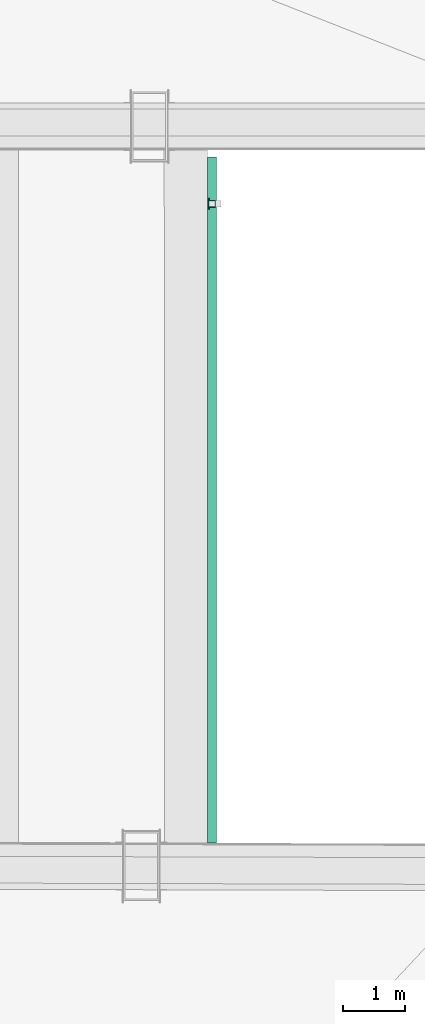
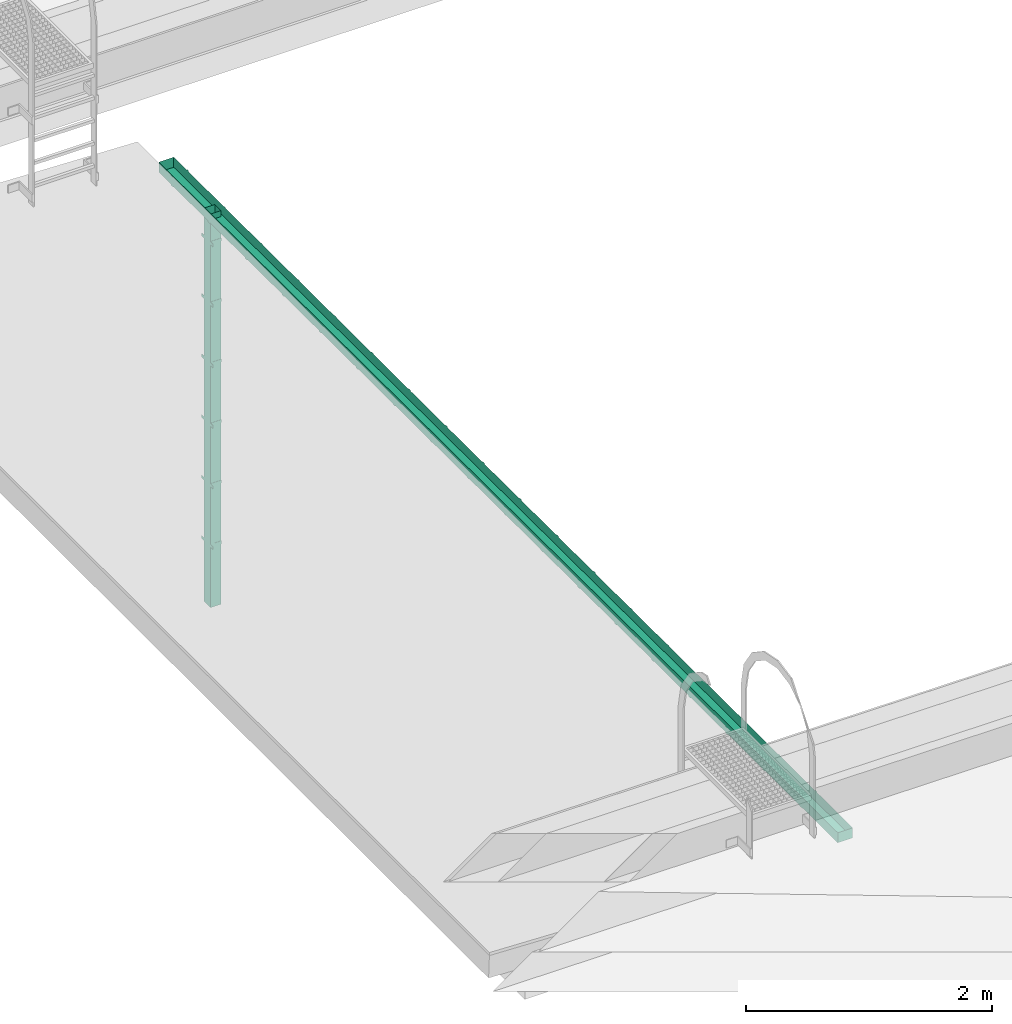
# One storey, part 26 of 47: 2 flow terminals.
"""IFC2X3 building model written with IfcOpenShell, lengths in millimetres."""

from ifc_helpers import new_model, entity, si_unit, converted_unit, derived_unit, money_unit, direction, frame, origin_with_axes, place, context, subcontext, project, spatial, open_shell, faceted_brep, surface_model, type_object, element, save


model = new_model("IFC2X3")

# Units and contexts
model_context = context("Model", 3, precision=1e-05, world=origin_with_axes(), true_north=direction((0.0, 1.0)))
body_context = subcontext(model_context, "Body", "Model", "MODEL_VIEW")
ifc_project = project(units=[si_unit("LENGTHUNIT", "METRE", prefix="MILLI"), si_unit("AREAUNIT", "SQUARE_METRE"), si_unit("VOLUMEUNIT", "CUBIC_METRE"), converted_unit("PLANEANGLEUNIT", "DEGREE", entity("IfcPlaneAngleMeasure", 0.0174532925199), si_unit("PLANEANGLEUNIT", "RADIAN"), dimensions=[0, 0, 0, 0, 0, 0, 0]), si_unit("SOLIDANGLEUNIT", "STERADIAN"), money_unit("EUR"), converted_unit("TIMEUNIT", "Year", entity("IfcTimeMeasure", 31556926.0), si_unit("TIMEUNIT", "SECOND"), dimensions=[0, 0, 1, 0, 0, 0, 0]), si_unit("MASSUNIT", "GRAM", prefix="KILO"), si_unit("THERMODYNAMICTEMPERATUREUNIT", "DEGREE_CELSIUS"), si_unit("LUMINOUSINTENSITYUNIT", "LUMEN"), si_unit("ENERGYUNIT", "JOULE", prefix="MEGA"), derived_unit("THERMALCONDUCTANCEUNIT", [(si_unit("POWERUNIT", "WATT"), 1), (si_unit("LENGTHUNIT", "METRE"), -1), (si_unit("THERMODYNAMICTEMPERATUREUNIT", "KELVIN"), -1)]), derived_unit("SPECIFICHEATCAPACITYUNIT", [(si_unit("ENERGYUNIT", "JOULE"), 1), (si_unit("MASSUNIT", "GRAM", prefix="KILO"), -1), (si_unit("THERMODYNAMICTEMPERATUREUNIT", "KELVIN"), -1)]), derived_unit("MASSDENSITYUNIT", [(si_unit("MASSUNIT", "GRAM", prefix="KILO"), 1), (si_unit("VOLUMEUNIT", "CUBIC_METRE"), -1)])], contexts=[model_context])

# Site, building, storey
site_placement = place(None, origin_with_axes())
site = spatial("IfcSite", under=ifc_project, at=site_placement, Name="Site", CompositionType="ELEMENT")
building_placement = place(site_placement, origin_with_axes())
building = spatial("IfcBuilding", under=site, at=building_placement, Name="Building", CompositionType="ELEMENT")
storey_placement = place(building_placement, frame((0.0, 0.0, 6000.0), z_axis=(0.0, 0.0, 1.0), x_axis=(1.0, 0.0, 0.0)))
storey = spatial("IfcBuildingStorey", under=building, at=storey_placement, Name="KATUSEPLAAN", CompositionType="ELEMENT", Elevation=6000.0)

# Flow terminals
waste_terminal_type_1 = type_object("IfcWasteTerminalType", Name="Gutter 22", PredefinedType="NOTDEFINED")
flow_terminal_1_placement = place(storey_placement, frame((40586.0364027, 22989.4626956, 174.455668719), z_axis=(0.0, 0.0, 1.0), x_axis=(0.0, 1.0, 0.0)))
element("IfcFlowTerminal", 1, at=flow_terminal_1_placement, inside=storey, type_object=waste_terminal_type_1, Name="Renn", context=body_context, shape_type="SurfaceModel", body=[
    surface_model("IfcShellBasedSurfaceModel", [(-0.349065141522, 70.0, -99.9993907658), (-0.349065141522, -70.0, -99.9993907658), (11021.4887445, -70.0, -138.473018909), (11021.4887445, 70.0, -138.473018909), (10321.4258603, 50.0, -136.029328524), (10321.4258603, -50.0, -136.029328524), (10221.4264695, -50.0, -135.680263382), (10221.4264695, 50.0, -135.680263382), (0.0, -70.0, 0.0), (11021.8378096, -70.0, -38.473628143), (11021.8378096, 70.0, -38.473628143), (0.0, 70.0, 0.0)], [open_shell([[[0, 1, 2, 3], [4, 5, 6, 7]], [[2, 1, 8, 9]], [[10, 11, 0, 3]]])]),
    surface_model("IfcShellBasedSurfaceModel", [(585.0, -74.0, -0.0420435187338), (585.0, -74.0, -104.147372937), (615.0, -74.0, -104.147372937), (615.0, -74.0, -0.0420435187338), (585.0, 74.0, -104.147372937), (615.0, 74.0, -104.147372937), (585.0, 74.0, -0.0420435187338), (615.0, 74.0, -0.0420435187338)], [open_shell([[[0, 1, 2, 3]], [[1, 4, 5, 2]], [[4, 6, 7, 5]]])]),
    surface_model("IfcShellBasedSurfaceModel", [(1185.0, -74.0, -2.13644712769), (1185.0, -74.0, -106.241776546), (1215.0, -74.0, -106.241776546), (1215.0, -74.0, -2.13644712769), (1185.0, 74.0, -106.241776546), (1215.0, 74.0, -106.241776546), (1185.0, 74.0, -2.13644712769), (1215.0, 74.0, -2.13644712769)], [open_shell([[[0, 1, 2, 3]], [[1, 4, 5, 2]], [[4, 6, 7, 5]]])]),
    surface_model("IfcShellBasedSurfaceModel", [(1785.0, -74.0, -4.23085073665), (1785.0, -74.0, -108.336180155), (1815.0, -74.0, -108.336180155), (1815.0, -74.0, -4.23085073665), (1785.0, 74.0, -108.336180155), (1815.0, 74.0, -108.336180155), (1785.0, 74.0, -4.23085073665), (1815.0, 74.0, -4.23085073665)], [open_shell([[[0, 1, 2, 3]], [[1, 4, 5, 2]], [[4, 6, 7, 5]]])]),
    surface_model("IfcShellBasedSurfaceModel", [(2385.0, -74.0, -6.32525434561), (2385.0, -74.0, -110.430583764), (2415.0, -74.0, -110.430583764), (2415.0, -74.0, -6.32525434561), (2385.0, 74.0, -110.430583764), (2415.0, 74.0, -110.430583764), (2385.0, 74.0, -6.32525434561), (2415.0, 74.0, -6.32525434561)], [open_shell([[[0, 1, 2, 3]], [[1, 4, 5, 2]], [[4, 6, 7, 5]]])]),
    surface_model("IfcShellBasedSurfaceModel", [(2985.0, -74.0, -8.41965795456), (2985.0, -74.0, -112.524987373), (3015.0, -74.0, -112.524987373), (3015.0, -74.0, -8.41965795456), (2985.0, 74.0, -112.524987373), (3015.0, 74.0, -112.524987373), (2985.0, 74.0, -8.41965795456), (3015.0, 74.0, -8.41965795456)], [open_shell([[[0, 1, 2, 3]], [[1, 4, 5, 2]], [[4, 6, 7, 5]]])]),
    surface_model("IfcShellBasedSurfaceModel", [(3585.0, -74.0, -10.5140615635), (3585.0, -74.0, -114.619390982), (3615.0, -74.0, -114.619390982), (3615.0, -74.0, -10.5140615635), (3585.0, 74.0, -114.619390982), (3615.0, 74.0, -114.619390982), (3585.0, 74.0, -10.5140615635), (3615.0, 74.0, -10.5140615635)], [open_shell([[[0, 1, 2, 3]], [[1, 4, 5, 2]], [[4, 6, 7, 5]]])]),
    surface_model("IfcShellBasedSurfaceModel", [(4185.0, -74.0, -12.6084651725), (4185.0, -74.0, -116.713794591), (4215.0, -74.0, -116.713794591), (4215.0, -74.0, -12.6084651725), (4185.0, 74.0, -116.713794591), (4215.0, 74.0, -116.713794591), (4185.0, 74.0, -12.6084651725), (4215.0, 74.0, -12.6084651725)], [open_shell([[[0, 1, 2, 3]], [[1, 4, 5, 2]], [[4, 6, 7, 5]]])]),
    surface_model("IfcShellBasedSurfaceModel", [(4785.0, -74.0, -14.7028687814), (4785.0, -74.0, -118.8081982), (4815.0, -74.0, -118.8081982), (4815.0, -74.0, -14.7028687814), (4785.0, 74.0, -118.8081982), (4815.0, 74.0, -118.8081982), (4785.0, 74.0, -14.7028687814), (4815.0, 74.0, -14.7028687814)], [open_shell([[[0, 1, 2, 3]], [[1, 4, 5, 2]], [[4, 6, 7, 5]]])]),
    surface_model("IfcShellBasedSurfaceModel", [(5385.0, -74.0, -16.7972723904), (5385.0, -74.0, -120.902601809), (5415.0, -74.0, -120.902601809), (5415.0, -74.0, -16.7972723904), (5385.0, 74.0, -120.902601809), (5415.0, 74.0, -120.902601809), (5385.0, 74.0, -16.7972723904), (5415.0, 74.0, -16.7972723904)], [open_shell([[[0, 1, 2, 3]], [[1, 4, 5, 2]], [[4, 6, 7, 5]]])]),
    surface_model("IfcShellBasedSurfaceModel", [(5985.0, -74.0, -18.8916759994), (5985.0, -74.0, -122.997005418), (6015.0, -74.0, -122.997005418), (6015.0, -74.0, -18.8916759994), (5985.0, 74.0, -122.997005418), (6015.0, 74.0, -122.997005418), (5985.0, 74.0, -18.8916759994), (6015.0, 74.0, -18.8916759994)], [open_shell([[[0, 1, 2, 3]], [[1, 4, 5, 2]], [[4, 6, 7, 5]]])]),
    surface_model("IfcShellBasedSurfaceModel", [(6585.0, -74.0, -20.9860796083), (6585.0, -74.0, -125.091409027), (6615.0, -74.0, -125.091409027), (6615.0, -74.0, -20.9860796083), (6585.0, 74.0, -125.091409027), (6615.0, 74.0, -125.091409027), (6585.0, 74.0, -20.9860796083), (6615.0, 74.0, -20.9860796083)], [open_shell([[[0, 1, 2, 3]], [[1, 4, 5, 2]], [[4, 6, 7, 5]]])]),
    surface_model("IfcShellBasedSurfaceModel", [(7185.0, -74.0, -23.0804832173), (7185.0, -74.0, -127.185812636), (7215.0, -74.0, -127.185812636), (7215.0, -74.0, -23.0804832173), (7185.0, 74.0, -127.185812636), (7215.0, 74.0, -127.185812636), (7185.0, 74.0, -23.0804832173), (7215.0, 74.0, -23.0804832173)], [open_shell([[[0, 1, 2, 3]], [[1, 4, 5, 2]], [[4, 6, 7, 5]]])]),
    surface_model("IfcShellBasedSurfaceModel", [(7785.0, -74.0, -25.1748868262), (7785.0, -74.0, -129.280216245), (7815.0, -74.0, -129.280216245), (7815.0, -74.0, -25.1748868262), (7785.0, 74.0, -129.280216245), (7815.0, 74.0, -129.280216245), (7785.0, 74.0, -25.1748868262), (7815.0, 74.0, -25.1748868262)], [open_shell([[[0, 1, 2, 3]], [[1, 4, 5, 2]], [[4, 6, 7, 5]]])]),
    surface_model("IfcShellBasedSurfaceModel", [(8385.0, -74.0, -27.2692904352), (8385.0, -74.0, -131.374619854), (8415.0, -74.0, -131.374619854), (8415.0, -74.0, -27.2692904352), (8385.0, 74.0, -131.374619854), (8415.0, 74.0, -131.374619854), (8385.0, 74.0, -27.2692904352), (8415.0, 74.0, -27.2692904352)], [open_shell([[[0, 1, 2, 3]], [[1, 4, 5, 2]], [[4, 6, 7, 5]]])]),
    surface_model("IfcShellBasedSurfaceModel", [(8985.0, -74.0, -29.3636940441), (8985.0, -74.0, -133.469023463), (9015.0, -74.0, -133.469023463), (9015.0, -74.0, -29.3636940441), (8985.0, 74.0, -133.469023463), (9015.0, 74.0, -133.469023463), (8985.0, 74.0, -29.3636940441), (9015.0, 74.0, -29.3636940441)], [open_shell([[[0, 1, 2, 3]], [[1, 4, 5, 2]], [[4, 6, 7, 5]]])]),
    surface_model("IfcShellBasedSurfaceModel", [(9585.0, -74.0, -31.4580976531), (9585.0, -74.0, -135.563427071), (9615.0, -74.0, -135.563427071), (9615.0, -74.0, -31.4580976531), (9585.0, 74.0, -135.563427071), (9615.0, 74.0, -135.563427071), (9585.0, 74.0, -31.4580976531), (9615.0, 74.0, -31.4580976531)], [open_shell([[[0, 1, 2, 3]], [[1, 4, 5, 2]], [[4, 6, 7, 5]]])]),
    surface_model("IfcShellBasedSurfaceModel", [(10185.0, -74.0, -33.5525012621), (10185.0, -74.0, -137.65783068), (10215.0, -74.0, -137.65783068), (10215.0, -74.0, -33.5525012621), (10185.0, 74.0, -137.65783068), (10215.0, 74.0, -137.65783068), (10185.0, 74.0, -33.5525012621), (10215.0, 74.0, -33.5525012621)], [open_shell([[[0, 1, 2, 3]], [[1, 4, 5, 2]], [[4, 6, 7, 5]]])]),
    surface_model("IfcShellBasedSurfaceModel", [(10785.0, -74.0, -35.646904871), (10785.0, -74.0, -139.752234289), (10815.0, -74.0, -139.752234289), (10815.0, -74.0, -35.646904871), (10785.0, 74.0, -139.752234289), (10815.0, 74.0, -139.752234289), (10785.0, 74.0, -35.646904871), (10815.0, 74.0, -35.646904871)], [open_shell([[[0, 1, 2, 3]], [[1, 4, 5, 2]], [[4, 6, 7, 5]]])]),
    surface_model("IfcShellBasedSurfaceModel", [(0.0, 70.0, 0.0), (-0.349065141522, 70.0, -99.9993907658), (-0.349065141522, -70.0, -99.9993907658), (0.0, -70.0, 0.0)], [open_shell([[[0, 1, 2, 3]]])]),
    surface_model("IfcShellBasedSurfaceModel", [(11021.8378096, 70.0, -38.473628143), (11021.4887445, 70.0, -138.473018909), (11021.4887445, -70.0, -138.473018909), (11021.8378096, -70.0, -38.473628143)], [open_shell([[[0, 1, 2, 3]]])]),
])
waste_terminal_type_2 = type_object("IfcWasteTerminalType", Name="Downspout 22", PredefinedType="NOTDEFINED")
flow_terminal_2_placement = place(storey_placement, frame((40587.5153557, 33261.5688685, -3802.84768905), z_axis=(0.0, 0.0, 1.0), x_axis=(0.0, 1.0, 0.0)))
element("IfcFlowTerminal", 2, at=flow_terminal_2_placement, inside=storey, type_object=waste_terminal_type_2, Name="FU - 002", context=body_context, shape_type="SurfaceModel", body=[
    surface_model("IfcShellBasedSurfaceModel", [(50.0, -50.0, 3900.0), (50.0, -50.0, 0.0), (50.0, 50.0, 0.0), (50.0, 50.0, 3900.0), (-50.0, -50.0, 3900.0), (-50.0, -50.0, 0.0), (-50.0, 50.0, 0.0), (-50.0, 50.0, 3900.0)], [open_shell([[[0, 1, 2, 3]], [[4, 5, 1, 0]], [[3, 2, 6, 7]], [[7, 6, 5, 4]]])]),
    faceted_brep([(90.0, 47.9, 600.0), (90.0, 47.9, 630.0), (52.0, 47.9, 630.0), (52.0, 47.9, 600.0), (90.0, 49.9, 600.0), (90.0, 49.9, 630.0), (50.2, 49.9, 630.0), (50.2, -50.3, 630.0), (-50.2, -50.3, 630.0), (-50.2, 49.9, 630.0), (-90.0, 49.9, 630.0), (-90.0, 47.9, 630.0), (-52.0, 47.9, 630.0), (-52.0, -52.1, 630.0), (52.0, -52.1, 630.0), (52.0, -52.1, 600.0), (-52.0, -52.1, 600.0), (-52.0, 47.9, 600.0), (-90.0, 47.9, 600.0), (-90.0, 49.9, 600.0), (-50.2, 49.9, 600.0), (-50.2, -50.3, 600.0), (50.2, -50.3, 600.0), (50.2, 49.9, 600.0)], [[[0, 1, 2, 3]], [[4, 5, 1, 0]], [[1, 5, 6, 7, 8, 9, 10, 11, 12, 13, 14, 2]], [[3, 2, 14, 15]], [[0, 3, 15, 16, 17, 18, 19, 20, 21, 22, 23, 4]], [[23, 6, 5, 4]], [[22, 7, 6, 23]], [[21, 8, 7, 22]], [[20, 9, 8, 21]], [[19, 10, 9, 20]], [[18, 11, 10, 19]], [[17, 12, 11, 18]], [[16, 13, 12, 17]], [[15, 14, 13, 16]]]),
    faceted_brep([(90.0, 47.9, 1200.0), (90.0, 47.9, 1230.0), (52.0, 47.9, 1230.0), (52.0, 47.9, 1200.0), (90.0, 49.9, 1200.0), (90.0, 49.9, 1230.0), (50.2, 49.9, 1230.0), (50.2, -50.3, 1230.0), (-50.2, -50.3, 1230.0), (-50.2, 49.9, 1230.0), (-90.0, 49.9, 1230.0), (-90.0, 47.9, 1230.0), (-52.0, 47.9, 1230.0), (-52.0, -52.1, 1230.0), (52.0, -52.1, 1230.0), (52.0, -52.1, 1200.0), (-52.0, -52.1, 1200.0), (-52.0, 47.9, 1200.0), (-90.0, 47.9, 1200.0), (-90.0, 49.9, 1200.0), (-50.2, 49.9, 1200.0), (-50.2, -50.3, 1200.0), (50.2, -50.3, 1200.0), (50.2, 49.9, 1200.0)], [[[0, 1, 2, 3]], [[4, 5, 1, 0]], [[1, 5, 6, 7, 8, 9, 10, 11, 12, 13, 14, 2]], [[3, 2, 14, 15]], [[0, 3, 15, 16, 17, 18, 19, 20, 21, 22, 23, 4]], [[23, 6, 5, 4]], [[22, 7, 6, 23]], [[21, 8, 7, 22]], [[20, 9, 8, 21]], [[19, 10, 9, 20]], [[18, 11, 10, 19]], [[17, 12, 11, 18]], [[16, 13, 12, 17]], [[15, 14, 13, 16]]]),
    faceted_brep([(90.0, 47.9, 1800.0), (90.0, 47.9, 1830.0), (52.0, 47.9, 1830.0), (52.0, 47.9, 1800.0), (90.0, 49.9, 1800.0), (90.0, 49.9, 1830.0), (50.2, 49.9, 1830.0), (50.2, -50.3, 1830.0), (-50.2, -50.3, 1830.0), (-50.2, 49.9, 1830.0), (-90.0, 49.9, 1830.0), (-90.0, 47.9, 1830.0), (-52.0, 47.9, 1830.0), (-52.0, -52.1, 1830.0), (52.0, -52.1, 1830.0), (52.0, -52.1, 1800.0), (-52.0, -52.1, 1800.0), (-52.0, 47.9, 1800.0), (-90.0, 47.9, 1800.0), (-90.0, 49.9, 1800.0), (-50.2, 49.9, 1800.0), (-50.2, -50.3, 1800.0), (50.2, -50.3, 1800.0), (50.2, 49.9, 1800.0)], [[[0, 1, 2, 3]], [[4, 5, 1, 0]], [[1, 5, 6, 7, 8, 9, 10, 11, 12, 13, 14, 2]], [[3, 2, 14, 15]], [[0, 3, 15, 16, 17, 18, 19, 20, 21, 22, 23, 4]], [[23, 6, 5, 4]], [[22, 7, 6, 23]], [[21, 8, 7, 22]], [[20, 9, 8, 21]], [[19, 10, 9, 20]], [[18, 11, 10, 19]], [[17, 12, 11, 18]], [[16, 13, 12, 17]], [[15, 14, 13, 16]]]),
    faceted_brep([(90.0, 47.9, 2400.0), (90.0, 47.9, 2430.0), (52.0, 47.9, 2430.0), (52.0, 47.9, 2400.0), (90.0, 49.9, 2400.0), (90.0, 49.9, 2430.0), (50.2, 49.9, 2430.0), (50.2, -50.3, 2430.0), (-50.2, -50.3, 2430.0), (-50.2, 49.9, 2430.0), (-90.0, 49.9, 2430.0), (-90.0, 47.9, 2430.0), (-52.0, 47.9, 2430.0), (-52.0, -52.1, 2430.0), (52.0, -52.1, 2430.0), (52.0, -52.1, 2400.0), (-52.0, -52.1, 2400.0), (-52.0, 47.9, 2400.0), (-90.0, 47.9, 2400.0), (-90.0, 49.9, 2400.0), (-50.2, 49.9, 2400.0), (-50.2, -50.3, 2400.0), (50.2, -50.3, 2400.0), (50.2, 49.9, 2400.0)], [[[0, 1, 2, 3]], [[4, 5, 1, 0]], [[1, 5, 6, 7, 8, 9, 10, 11, 12, 13, 14, 2]], [[3, 2, 14, 15]], [[0, 3, 15, 16, 17, 18, 19, 20, 21, 22, 23, 4]], [[23, 6, 5, 4]], [[22, 7, 6, 23]], [[21, 8, 7, 22]], [[20, 9, 8, 21]], [[19, 10, 9, 20]], [[18, 11, 10, 19]], [[17, 12, 11, 18]], [[16, 13, 12, 17]], [[15, 14, 13, 16]]]),
    faceted_brep([(90.0, 47.9, 3000.0), (90.0, 47.9, 3030.0), (52.0, 47.9, 3030.0), (52.0, 47.9, 3000.0), (90.0, 49.9, 3000.0), (90.0, 49.9, 3030.0), (50.2, 49.9, 3030.0), (50.2, -50.3, 3030.0), (-50.2, -50.3, 3030.0), (-50.2, 49.9, 3030.0), (-90.0, 49.9, 3030.0), (-90.0, 47.9, 3030.0), (-52.0, 47.9, 3030.0), (-52.0, -52.1, 3030.0), (52.0, -52.1, 3030.0), (52.0, -52.1, 3000.0), (-52.0, -52.1, 3000.0), (-52.0, 47.9, 3000.0), (-90.0, 47.9, 3000.0), (-90.0, 49.9, 3000.0), (-50.2, 49.9, 3000.0), (-50.2, -50.3, 3000.0), (50.2, -50.3, 3000.0), (50.2, 49.9, 3000.0)], [[[0, 1, 2, 3]], [[4, 5, 1, 0]], [[1, 5, 6, 7, 8, 9, 10, 11, 12, 13, 14, 2]], [[3, 2, 14, 15]], [[0, 3, 15, 16, 17, 18, 19, 20, 21, 22, 23, 4]], [[23, 6, 5, 4]], [[22, 7, 6, 23]], [[21, 8, 7, 22]], [[20, 9, 8, 21]], [[19, 10, 9, 20]], [[18, 11, 10, 19]], [[17, 12, 11, 18]], [[16, 13, 12, 17]], [[15, 14, 13, 16]]]),
    faceted_brep([(90.0, 47.9, 3600.0), (90.0, 47.9, 3630.0), (52.0, 47.9, 3630.0), (52.0, 47.9, 3600.0), (90.0, 49.9, 3600.0), (90.0, 49.9, 3630.0), (50.2, 49.9, 3630.0), (50.2, -50.3, 3630.0), (-50.2, -50.3, 3630.0), (-50.2, 49.9, 3630.0), (-90.0, 49.9, 3630.0), (-90.0, 47.9, 3630.0), (-52.0, 47.9, 3630.0), (-52.0, -52.1, 3630.0), (52.0, -52.1, 3630.0), (52.0, -52.1, 3600.0), (-52.0, -52.1, 3600.0), (-52.0, 47.9, 3600.0), (-90.0, 47.9, 3600.0), (-90.0, 49.9, 3600.0), (-50.2, 49.9, 3600.0), (-50.2, -50.3, 3600.0), (50.2, -50.3, 3600.0), (50.2, 49.9, 3600.0)], [[[0, 1, 2, 3]], [[4, 5, 1, 0]], [[1, 5, 6, 7, 8, 9, 10, 11, 12, 13, 14, 2]], [[3, 2, 14, 15]], [[0, 3, 15, 16, 17, 18, 19, 20, 21, 22, 23, 4]], [[23, 6, 5, 4]], [[22, 7, 6, 23]], [[21, 8, 7, 22]], [[20, 9, 8, 21]], [[19, 10, 9, 20]], [[18, 11, 10, 19]], [[17, 12, 11, 18]], [[16, 13, 12, 17]], [[15, 14, 13, 16]]]),
])

save(model, "model.ifc")
